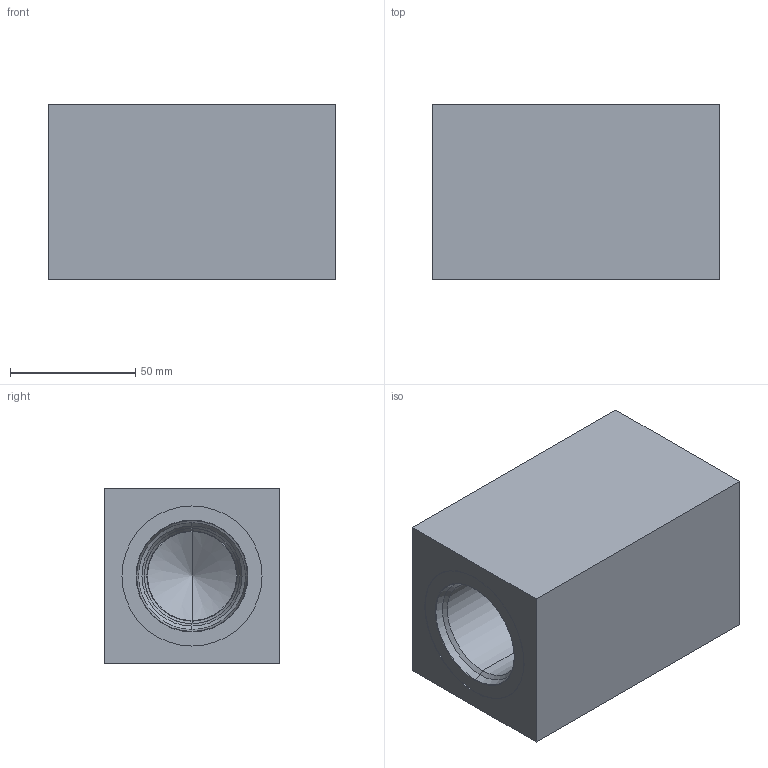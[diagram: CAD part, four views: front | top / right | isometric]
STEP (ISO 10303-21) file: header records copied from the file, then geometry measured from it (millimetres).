
FILE_DESCRIPTION (( 'STEP AP214' ), '1' );
FILE_NAME ('0296102.STEP', '2022-01-11T07:35:57', ( '' ), ( '' ), 'SwSTEP 2.0', 'SolidWorks 2020', '' );
FILE_SCHEMA (( 'AUTOMOTIVE_DESIGN' ));
Length unit declared in the file: millimetre
Products named in the file (1): 0296102
Bounding box: 115 x 70 x 70 mm (x, y, z)
Volume: 451211.6 mm3; surface area: 52937.7 mm2
Topology: 1 solids, 1 shells, 37 faces, 76 edges, 43 vertices
Faces by surface type: cylinder 12, cone 10, plane 9, torus 6
Entity records: 1397 total; most frequent: DIRECTION 190, CARTESIAN_POINT 155, ORIENTED_EDGE 148, AXIS2_PLACEMENT_3D 78, EDGE_CURVE 74, VERTEX_POINT 43, EDGE_LOOP 41, UNCERTAINTY_MEASURE_WITH_UNIT 40
